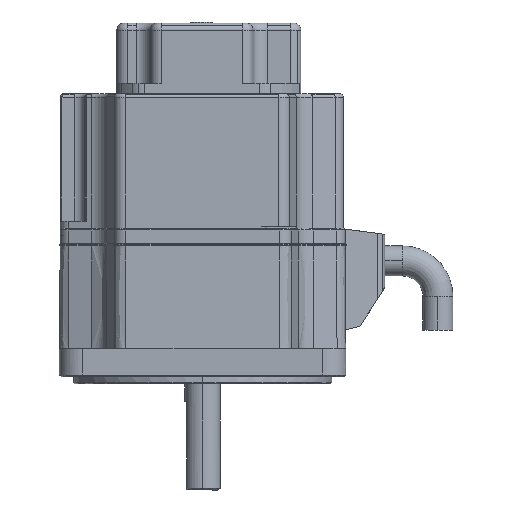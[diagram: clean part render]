
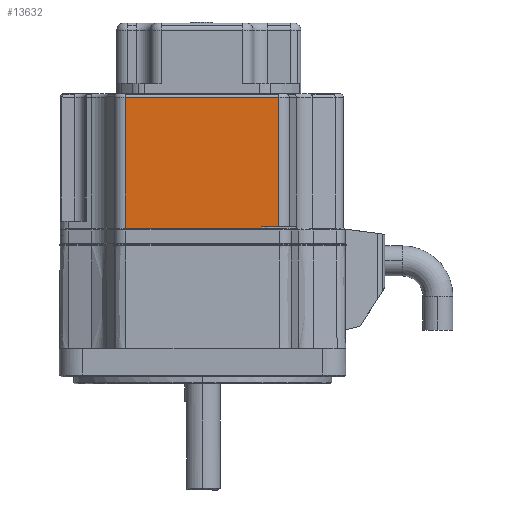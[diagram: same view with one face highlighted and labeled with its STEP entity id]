
A CAD part, left-side view. The second image highlights one B-rep face of the part: STEP entity #13632.
In plain terms, the highlighted planar face has unit normal (-1, 0, 0) as drawn and (0, -1, 0) by its records, which use the part's own axes.
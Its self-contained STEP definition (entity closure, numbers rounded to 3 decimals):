
#305 = DIRECTION ( 'NONE',  ( 1., 0., 0. ) ) ;
#624 = FACE_OUTER_BOUND ( 'NONE', #1651, .T. ) ;
#1049 = VERTEX_POINT ( 'NONE', #12152 ) ;
#1172 = EDGE_CURVE ( 'NONE', #23371, #1049, #18803, .T. ) ;
#1651 = EDGE_LOOP ( 'NONE', ( #6284, #12660, #34940, #20008, #32052, #23658 ) ) ;
#2210 = VERTEX_POINT ( 'NONE', #26375 ) ;
#3280 = CARTESIAN_POINT ( 'NONE',  ( -21.661, -40., 0. ) ) ;
#3598 = DIRECTION ( 'NONE',  ( 0., 0., -1. ) ) ;
#3683 = EDGE_CURVE ( 'NONE', #2210, #9055, #32552, .T. ) ;
#4164 = CARTESIAN_POINT ( 'NONE',  ( 17., -40., 0.5 ) ) ;
#6284 = ORIENTED_EDGE ( 'NONE', *, *, #3683, .T. ) ;
#7879 = CARTESIAN_POINT ( 'NONE',  ( 17., -40., 0. ) ) ;
#9055 = VERTEX_POINT ( 'NONE', #17532 ) ;
#9654 = CARTESIAN_POINT ( 'NONE',  ( -21.661, -40., 0. ) ) ;
#10193 = VECTOR ( 'NONE', #24204, 1000. ) ;
#11944 = DIRECTION ( 'NONE',  ( 0., 0., -1. ) ) ;
#12152 = CARTESIAN_POINT ( 'NONE',  ( 21.661, -40., 37. ) ) ;
#12660 = ORIENTED_EDGE ( 'NONE', *, *, #16342, .T. ) ;
#13228 = EDGE_CURVE ( 'NONE', #25228, #27029, #31855, .T. ) ;
#13632 = ADVANCED_FACE ( 'NONE', ( #624 ), #34214, .T. ) ;
#15063 = CARTESIAN_POINT ( 'NONE',  ( -21.661, -40., 0. ) ) ;
#15246 = EDGE_CURVE ( 'NONE', #2210, #27029, #18224, .T. ) ;
#16017 = CARTESIAN_POINT ( 'NONE',  ( 17., -40., 0.5 ) ) ;
#16342 = EDGE_CURVE ( 'NONE', #9055, #1049, #19668, .T. ) ;
#17532 = CARTESIAN_POINT ( 'NONE',  ( 21.661, -40., 0.5 ) ) ;
#18224 = LINE ( 'NONE', #4164, #30317 ) ;
#18803 = LINE ( 'NONE', #30148, #32408 ) ;
#19668 = LINE ( 'NONE', #28043, #25618 ) ;
#20008 = ORIENTED_EDGE ( 'NONE', *, *, #22698, .F. ) ;
#22698 = EDGE_CURVE ( 'NONE', #25228, #23371, #28987, .T. ) ;
#23082 = DIRECTION ( 'NONE',  ( 0., -1., 0. ) ) ;
#23371 = VERTEX_POINT ( 'NONE', #36539 ) ;
#23658 = ORIENTED_EDGE ( 'NONE', *, *, #15246, .F. ) ;
#24204 = DIRECTION ( 'NONE',  ( 1., 0., 0. ) ) ;
#25228 = VERTEX_POINT ( 'NONE', #9654 ) ;
#25618 = VECTOR ( 'NONE', #36598, 1000. ) ;
#25796 = VECTOR ( 'NONE', #31783, 1000. ) ;
#26375 = CARTESIAN_POINT ( 'NONE',  ( 17., -40., 0.5 ) ) ;
#27029 = VERTEX_POINT ( 'NONE', #7879 ) ;
#27346 = DIRECTION ( 'NONE',  ( 1., 0., 0. ) ) ;
#28043 = CARTESIAN_POINT ( 'NONE',  ( 21.661, -40., 0.5 ) ) ;
#28824 = VECTOR ( 'NONE', #305, 1000. ) ;
#28987 = LINE ( 'NONE', #15063, #25796 ) ;
#30148 = CARTESIAN_POINT ( 'NONE',  ( -21.661, -40., 37. ) ) ;
#30317 = VECTOR ( 'NONE', #3598, 1000. ) ;
#31435 = CARTESIAN_POINT ( 'NONE',  ( -21.661, -40., 0. ) ) ;
#31783 = DIRECTION ( 'NONE',  ( 0., 0., 1. ) ) ;
#31835 = AXIS2_PLACEMENT_3D ( 'NONE', #31435, #23082, #11944 ) ;
#31855 = LINE ( 'NONE', #3280, #28824 ) ;
#32052 = ORIENTED_EDGE ( 'NONE', *, *, #13228, .T. ) ;
#32408 = VECTOR ( 'NONE', #27346, 1000. ) ;
#32552 = LINE ( 'NONE', #16017, #10193 ) ;
#34214 = PLANE ( 'NONE',  #31835 ) ;
#34940 = ORIENTED_EDGE ( 'NONE', *, *, #1172, .F. ) ;
#36539 = CARTESIAN_POINT ( 'NONE',  ( -21.661, -40., 37. ) ) ;
#36598 = DIRECTION ( 'NONE',  ( 0., 0., 1. ) ) ;
